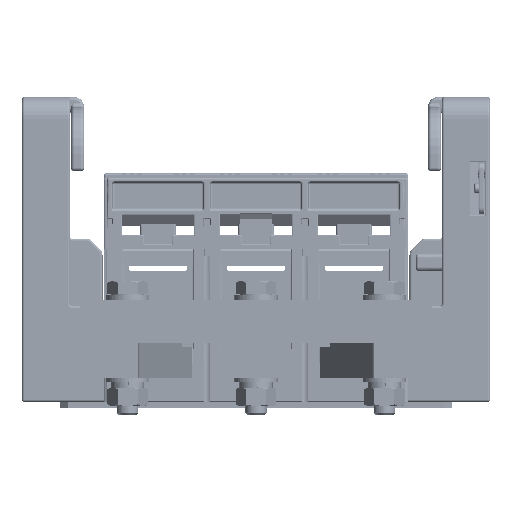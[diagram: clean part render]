
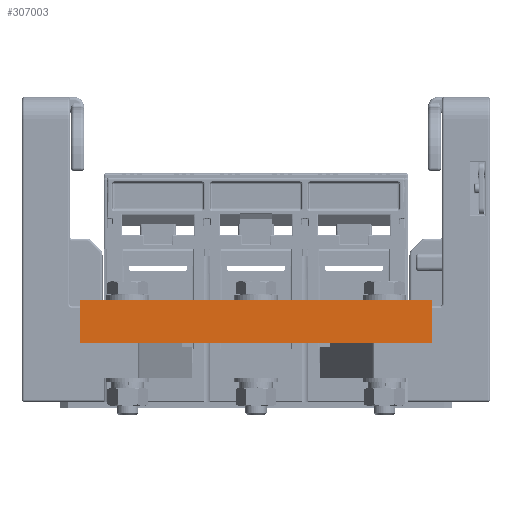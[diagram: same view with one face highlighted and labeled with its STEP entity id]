
A CAD part, front view. The second image highlights one B-rep face of the part: STEP entity #307003.
In plain terms, the highlighted planar face has unit normal (0, -1, 0).
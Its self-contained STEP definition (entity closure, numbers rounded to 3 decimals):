
#306633 = VERTEX_POINT ( 'NONE', #402717 ) ;
#306643 = EDGE_CURVE ( 'NONE', #306633, #306650, #402710, .T. ) ;
#306650 = VERTEX_POINT ( 'NONE', #402679 ) ;
#306687 = VERTEX_POINT ( 'NONE', #402813 ) ;
#306730 = VERTEX_POINT ( 'NONE', #403213 ) ;
#306781 = EDGE_LOOP ( 'NONE', ( #306785, #306787, #306797, #306800 ) ) ;
#306785 = ORIENTED_EDGE ( 'NONE', *, *, #306811, .T. ) ;
#306787 = ORIENTED_EDGE ( 'NONE', *, *, #306791, .F. ) ;
#306791 = EDGE_CURVE ( 'NONE', #306650, #306730, #403312, .T. ) ;
#306797 = ORIENTED_EDGE ( 'NONE', *, *, #306643, .F. ) ;
#306800 = ORIENTED_EDGE ( 'NONE', *, *, #306974, .T. ) ;
#306811 = EDGE_CURVE ( 'NONE', #306687, #306730, #403478, .T. ) ;
#306974 = EDGE_CURVE ( 'NONE', #306633, #306687, #404421, .T. ) ;
#307003 = ADVANCED_FACE ( 'NONE', ( #404532 ), #404755, .F. ) ;
#402679 = CARTESIAN_POINT ( 'NONE',  ( 69.596, -213.781, 13.486 ) ) ;
#402703 = DIRECTION ( 'NONE',  ( 1., 0., 0. ) ) ;
#402706 = VECTOR ( 'NONE', #402703, 1000. ) ;
#402708 = CARTESIAN_POINT ( 'NONE',  ( 69.596, -213.781, 13.486 ) ) ;
#402710 = LINE ( 'NONE', #402708, #402706 ) ;
#402717 = CARTESIAN_POINT ( 'NONE',  ( -92.404, -213.781, 13.486 ) ) ;
#402813 = CARTESIAN_POINT ( 'NONE',  ( -92.404, -213.781, -6.514 ) ) ;
#403213 = CARTESIAN_POINT ( 'NONE',  ( 69.596, -213.781, -6.514 ) ) ;
#403299 = DIRECTION ( 'NONE',  ( 0., 0., -1. ) ) ;
#403303 = VECTOR ( 'NONE', #403299, 1000. ) ;
#403308 = CARTESIAN_POINT ( 'NONE',  ( 69.596, -213.781, 13.486 ) ) ;
#403312 = LINE ( 'NONE', #403308, #403303 ) ;
#403468 = DIRECTION ( 'NONE',  ( 1., 0., 0. ) ) ;
#403472 = VECTOR ( 'NONE', #403468, 1000. ) ;
#403476 = CARTESIAN_POINT ( 'NONE',  ( 69.596, -213.781, -6.514 ) ) ;
#403478 = LINE ( 'NONE', #403476, #403472 ) ;
#404392 = DIRECTION ( 'NONE',  ( 0., 0., -1. ) ) ;
#404394 = VECTOR ( 'NONE', #404392, 1000. ) ;
#404399 = CARTESIAN_POINT ( 'NONE',  ( -92.404, -213.781, 13.486 ) ) ;
#404421 = LINE ( 'NONE', #404399, #404394 ) ;
#404532 = FACE_OUTER_BOUND ( 'NONE', #306781, .T. ) ;
#404724 = DIRECTION ( 'NONE',  ( -1., 0., 0. ) ) ;
#404729 = DIRECTION ( 'NONE',  ( 0., 1., 0. ) ) ;
#404736 = CARTESIAN_POINT ( 'NONE',  ( 69.596, -213.781, 13.486 ) ) ;
#404739 = AXIS2_PLACEMENT_3D ( 'NONE', #404736, #404729, #404724 ) ;
#404755 = PLANE ( 'NONE',  #404739 ) ;
